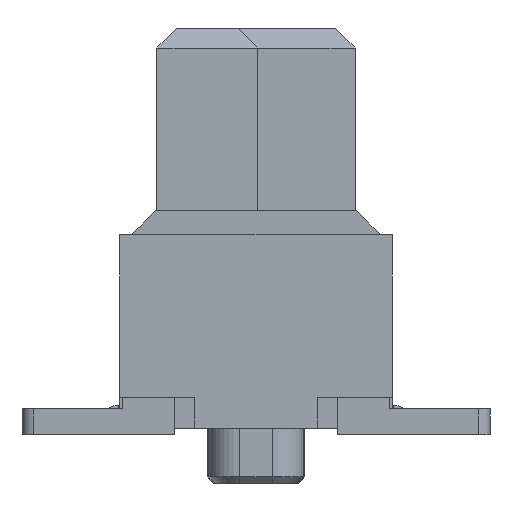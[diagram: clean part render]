
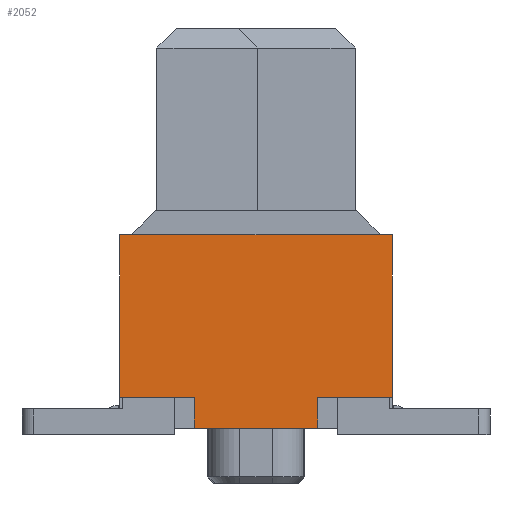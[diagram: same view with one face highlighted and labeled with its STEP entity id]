
A CAD part, left-side view. The second image highlights one B-rep face of the part: STEP entity #2052.
In plain terms, the highlighted planar face has unit normal (-1, 0, 0).
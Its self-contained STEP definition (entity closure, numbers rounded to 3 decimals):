
#2052=ADVANCED_FACE('',(#4951),#4952,.T.);
#4951=FACE_OUTER_BOUND('',#8788,.T.);
#4952=PLANE('',#8789);
#8788=EDGE_LOOP('',(#14994,#14995,#14996,#14997,#14998,#14999,#15000,#15001));
#8789=AXIS2_PLACEMENT_3D('',#15002,#15003,#15004);
#14994=ORIENTED_EDGE('',*,*,#24710,.F.);
#14995=ORIENTED_EDGE('',*,*,#24711,.F.);
#14996=ORIENTED_EDGE('',*,*,#24712,.T.);
#14997=ORIENTED_EDGE('',*,*,#24713,.F.);
#14998=ORIENTED_EDGE('',*,*,#24714,.F.);
#14999=ORIENTED_EDGE('',*,*,#24715,.F.);
#15000=ORIENTED_EDGE('',*,*,#24716,.T.);
#15001=ORIENTED_EDGE('',*,*,#24717,.T.);
#15002=CARTESIAN_POINT('',(0.0,4.2,0.0));
#15003=DIRECTION('',(-1.0,0.0,0.));
#15004=DIRECTION('',(0.,0.0,-1.0));
#24710=EDGE_CURVE('',#30126,#30127,#30128,.T.);
#24711=EDGE_CURVE('',#30129,#30126,#30130,.T.);
#24712=EDGE_CURVE('',#30129,#30131,#30132,.T.);
#24713=EDGE_CURVE('',#30133,#30131,#30134,.T.);
#24714=EDGE_CURVE('',#30135,#30133,#30136,.T.);
#24715=EDGE_CURVE('',#30137,#30135,#30138,.T.);
#24716=EDGE_CURVE('',#30137,#30139,#30140,.T.);
#24717=EDGE_CURVE('',#30139,#30127,#30141,.T.);
#30126=VERTEX_POINT('',#37866);
#30127=VERTEX_POINT('',#37867);
#30128=LINE('',#37868,#37869);
#30129=VERTEX_POINT('',#37870);
#30130=LINE('',#37871,#37872);
#30131=VERTEX_POINT('',#37873);
#30132=LINE('',#37874,#37875);
#30133=VERTEX_POINT('',#37876);
#30134=LINE('',#37877,#37878);
#30135=VERTEX_POINT('',#37879);
#30136=LINE('',#37880,#37881);
#30137=VERTEX_POINT('',#37882);
#30138=LINE('',#37883,#37884);
#30139=VERTEX_POINT('',#37885);
#30140=LINE('',#37886,#37887);
#30141=LINE('',#37888,#37889);
#37866=CARTESIAN_POINT('',(0.0,1.15,0.475));
#37867=CARTESIAN_POINT('',(0.0,1.15,0.0));
#37868=CARTESIAN_POINT('',(0.0,1.15,0.475));
#37869=VECTOR('',#46256,1000.0);
#37870=CARTESIAN_POINT('',(0.0,0.0,0.475));
#37871=CARTESIAN_POINT('',(0.0,1.15,0.475));
#37872=VECTOR('',#46257,1000.0);
#37873=CARTESIAN_POINT('',(0.0,0.0,2.975));
#37874=CARTESIAN_POINT('',(0.0,0.0,0.0));
#37875=VECTOR('',#46258,1000.0);
#37876=CARTESIAN_POINT('',(0.0,4.2,2.975));
#37877=CARTESIAN_POINT('',(0.0,4.2,2.975));
#37878=VECTOR('',#46259,1000.0);
#37879=CARTESIAN_POINT('',(0.0,4.2,0.475));
#37880=CARTESIAN_POINT('',(0.0,4.2,0.0));
#37881=VECTOR('',#46260,1000.0);
#37882=CARTESIAN_POINT('',(0.0,3.05,0.475));
#37883=CARTESIAN_POINT('',(0.0,3.05,0.475));
#37884=VECTOR('',#46261,1000.0);
#37885=CARTESIAN_POINT('',(0.0,3.05,0.0));
#37886=CARTESIAN_POINT('',(0.0,3.05,0.475));
#37887=VECTOR('',#46262,1000.0);
#37888=CARTESIAN_POINT('',(0.0,4.2,0.0));
#37889=VECTOR('',#46263,1000.0);
#46256=DIRECTION('',(0.,0.0,-1.0));
#46257=DIRECTION('',(0.0,1.0,0.0));
#46258=DIRECTION('',(0.,0.0,1.0));
#46259=DIRECTION('',(0.0,-1.0,0.0));
#46260=DIRECTION('',(0.,0.0,1.0));
#46261=DIRECTION('',(0.0,1.0,0.0));
#46262=DIRECTION('',(0.,0.0,-1.0));
#46263=DIRECTION('',(0.0,-1.0,0.0));
